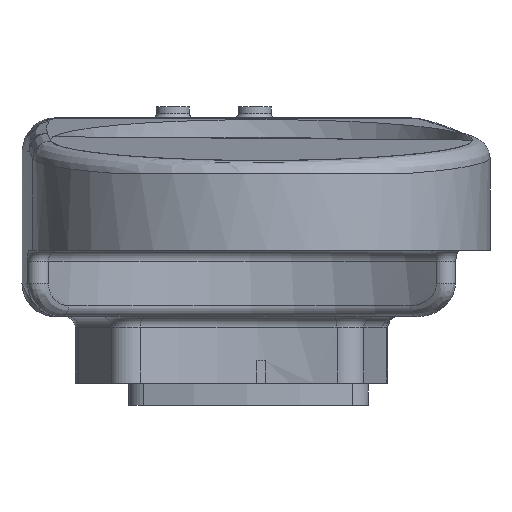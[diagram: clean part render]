
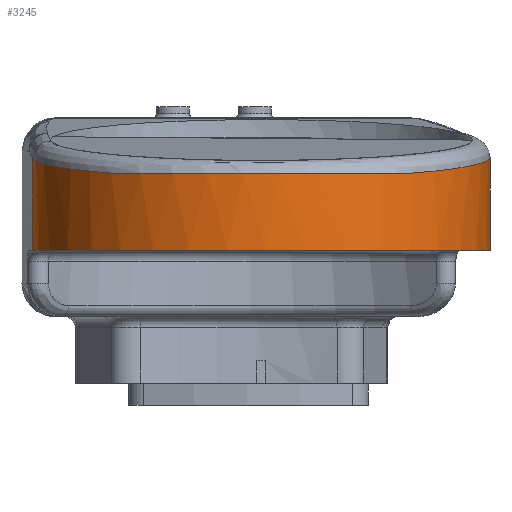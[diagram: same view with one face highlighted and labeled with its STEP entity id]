
A CAD part, front view. The second image highlights one B-rep face of the part: STEP entity #3245.
In plain terms, the highlighted cylindrical face has radius 103.5 mm (diameter 207 mm), a partial arc.
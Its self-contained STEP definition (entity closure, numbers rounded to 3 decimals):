
#98 = CARTESIAN_POINT ( 'NONE',  ( 103.5, -30.435, -20.751 ) ) ;
#212 = EDGE_CURVE ( 'NONE', #2877, #3125, #2250, .T. ) ;
#416 = LINE ( 'NONE', #4785, #8505 ) ;
#1083 = CARTESIAN_POINT ( 'NONE',  ( 67.915, -78.101, -25. ) ) ;
#1581 = CARTESIAN_POINT ( 'NONE',  ( 103.5, 0., -18.037 ) ) ;
#1679 = CIRCLE ( 'NONE', #8963, 103.5 ) ;
#2250 = CIRCLE ( 'NONE', #9390, 103.5 ) ;
#2412 = EDGE_CURVE ( 'NONE', #7056, #9093, #2545, .T. ) ;
#2545 =( BOUNDED_CURVE ( )  B_SPLINE_CURVE ( 3, ( #9619, #2969, #8809, #6300 ),
 .UNSPECIFIED., .F., .T. ) 
 B_SPLINE_CURVE_WITH_KNOTS ( ( 4, 4 ),
 ( 3.857, 4.667 ),
 .UNSPECIFIED. ) 
 CURVE ( )  GEOMETRIC_REPRESENTATION_ITEM ( )  RATIONAL_B_SPLINE_CURVE ( ( 1., 0.946, 0.946, 1. ) ) 
 REPRESENTATION_ITEM ( '' )  );
#2559 = CARTESIAN_POINT ( 'NONE',  ( 103.5, 0., -18.037 ) ) ;
#2639 = DIRECTION ( 'NONE',  ( 0., 0., -1. ) ) ;
#2692 = ORIENTED_EDGE ( 'NONE', *, *, #212, .F. ) ;
#2723 = EDGE_CURVE ( 'NONE', #3125, #9093, #3427, .T. ) ;
#2849 = CARTESIAN_POINT ( 'NONE',  ( 103.5, 0., -60. ) ) ;
#2877 = VERTEX_POINT ( 'NONE', #2849 ) ;
#2969 = CARTESIAN_POINT ( 'NONE',  ( -89.593, -59.251, -23.319 ) ) ;
#2970 = AXIS2_PLACEMENT_3D ( 'NONE', #5554, #4707, #3055 ) ;
#3055 = DIRECTION ( 'NONE',  ( 1., 0., 0. ) ) ;
#3125 = VERTEX_POINT ( 'NONE', #3509 ) ;
#3224 = EDGE_LOOP ( 'NONE', ( #2692, #9607, #10429, #4648, #5157, #8042 ) ) ;
#3245 = ADVANCED_FACE ( 'NONE', ( #6947 ), #5504, .T. ) ;
#3427 = LINE ( 'NONE', #8233, #5217 ) ;
#3509 = CARTESIAN_POINT ( 'NONE',  ( -103.394, -4.687, -60. ) ) ;
#3510 = CARTESIAN_POINT ( 'NONE',  ( 67.915, -78.101, -25. ) ) ;
#4530 = VERTEX_POINT ( 'NONE', #1581 ) ;
#4648 = ORIENTED_EDGE ( 'NONE', *, *, #8903, .T. ) ;
#4707 = DIRECTION ( 'NONE',  ( 0., 0., 1. ) ) ;
#4782 = DIRECTION ( 'NONE',  ( -1., 0., 0. ) ) ;
#4785 = CARTESIAN_POINT ( 'NONE',  ( 103.5, 0., -90. ) ) ;
#5157 = ORIENTED_EDGE ( 'NONE', *, *, #2412, .T. ) ;
#5217 = VECTOR ( 'NONE', #6921, 1000. ) ;
#5504 = CYLINDRICAL_SURFACE ( 'NONE', #2970, 103.5 ) ;
#5554 = CARTESIAN_POINT ( 'NONE',  ( 0., 0., -90. ) ) ;
#5630 = CARTESIAN_POINT ( 'NONE',  ( 0., 0., -60. ) ) ;
#5773 = EDGE_CURVE ( 'NONE', #2877, #4530, #416, .T. ) ;
#5900 = CARTESIAN_POINT ( 'NONE',  ( 90.881, -58.13, -23.22 ) ) ;
#6300 = CARTESIAN_POINT ( 'NONE',  ( -103.394, -4.687, -18.455 ) ) ;
#6577 = CARTESIAN_POINT ( 'NONE',  ( -67.915, -78.101, -25. ) ) ;
#6921 = DIRECTION ( 'NONE',  ( 0., 0., 1. ) ) ;
#6947 = FACE_OUTER_BOUND ( 'NONE', #3224, .T. ) ;
#7056 = VERTEX_POINT ( 'NONE', #6577 ) ;
#7313 = DIRECTION ( 'NONE',  ( 0., 0., -1. ) ) ;
#8042 = ORIENTED_EDGE ( 'NONE', *, *, #2723, .F. ) ;
#8233 = CARTESIAN_POINT ( 'NONE',  ( -103.394, -4.687, -90. ) ) ;
#8505 = VECTOR ( 'NONE', #9912, 1000. ) ;
#8809 = CARTESIAN_POINT ( 'NONE',  ( -102.093, -33.385, -21.014 ) ) ;
#8873 = CARTESIAN_POINT ( 'NONE',  ( -103.394, -4.687, -18.455 ) ) ;
#8903 = EDGE_CURVE ( 'NONE', #9701, #7056, #1679, .T. ) ;
#8963 = AXIS2_PLACEMENT_3D ( 'NONE', #10708, #2639, #10150 ) ;
#9093 = VERTEX_POINT ( 'NONE', #8873 ) ;
#9379 =( BOUNDED_CURVE ( )  B_SPLINE_CURVE ( 3, ( #2559, #98, #5900, #3510 ),
 .UNSPECIFIED., .F., .T. ) 
 B_SPLINE_CURVE_WITH_KNOTS ( ( 4, 4 ),
 ( 1.571, 2.426 ),
 .UNSPECIFIED. ) 
 CURVE ( )  GEOMETRIC_REPRESENTATION_ITEM ( )  RATIONAL_B_SPLINE_CURVE ( ( 1., 0.94, 0.94, 1. ) ) 
 REPRESENTATION_ITEM ( '' )  );
#9390 = AXIS2_PLACEMENT_3D ( 'NONE', #5630, #7313, #4782 ) ;
#9431 = EDGE_CURVE ( 'NONE', #4530, #9701, #9379, .T. ) ;
#9607 = ORIENTED_EDGE ( 'NONE', *, *, #5773, .T. ) ;
#9619 = CARTESIAN_POINT ( 'NONE',  ( -67.915, -78.101, -25. ) ) ;
#9701 = VERTEX_POINT ( 'NONE', #1083 ) ;
#9912 = DIRECTION ( 'NONE',  ( 0., 0., 1. ) ) ;
#10150 = DIRECTION ( 'NONE',  ( -1., 0., 0. ) ) ;
#10429 = ORIENTED_EDGE ( 'NONE', *, *, #9431, .T. ) ;
#10708 = CARTESIAN_POINT ( 'NONE',  ( 0., 0., -25. ) ) ;
